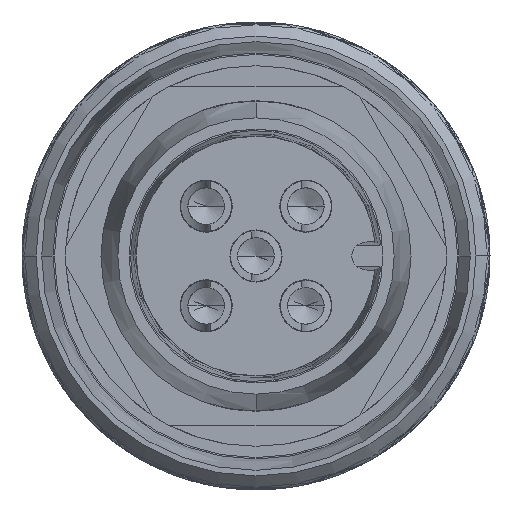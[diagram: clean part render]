
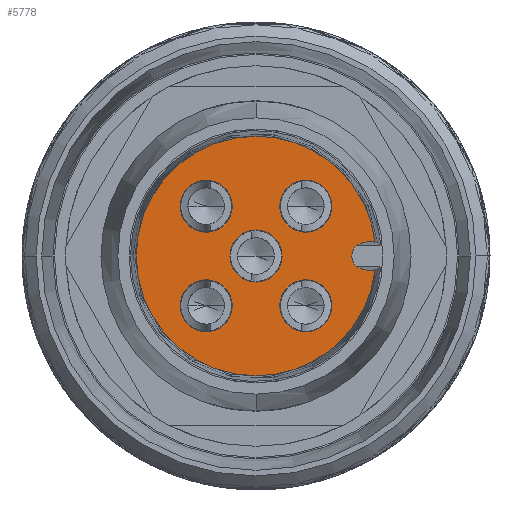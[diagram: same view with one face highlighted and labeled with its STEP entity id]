
A CAD part, left-side view. The second image highlights one B-rep face of the part: STEP entity #5778.
In plain terms, the highlighted planar face has unit normal (-1, 0, 0).
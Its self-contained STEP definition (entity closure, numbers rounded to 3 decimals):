
#5211=CARTESIAN_POINT('',(0.,0.,-3.95));
#5212=DIRECTION('',(-1.,0.,0.));
#5213=DIRECTION('',(0.,-1.,0.));
#5214=AXIS2_PLACEMENT_3D('',#5211,#5212,#5213);
#5216=CARTESIAN_POINT('',(0.,0.,0.));
#5217=DIRECTION('',(1.,0.,0.));
#5218=DIRECTION('',(0.,0.118,-0.993));
#5219=AXIS2_PLACEMENT_3D('',#5216,#5217,#5218);
#5221=CARTESIAN_POINT('',(0.,0.,0.));
#5222=DIRECTION('',(1.,0.,0.));
#5223=DIRECTION('',(0.,1.,0.));
#5224=AXIS2_PLACEMENT_3D('',#5221,#5222,#5223);
#5226=CARTESIAN_POINT('',(0.,0.,0.));
#5227=DIRECTION('',(1.,0.,0.));
#5228=DIRECTION('',(0.,-1.,0.));
#5229=AXIS2_PLACEMENT_3D('',#5226,#5227,#5228);
#5231=DIRECTION('',(0.,0.,1.));
#5232=VECTOR('',#5231,0.27);
#5233=CARTESIAN_POINT('',(0.,-0.5,-4.22));
#5234=LINE('',#5233,#5232);
#5235=CARTESIAN_POINT('',(0.,-1.768,-1.768));
#5236=DIRECTION('',(-1.,0.,0.));
#5237=DIRECTION('',(0.,1.,0.));
#5238=AXIS2_PLACEMENT_3D('',#5235,#5236,#5237);
#5240=CARTESIAN_POINT('',(0.,-1.768,-1.768));
#5241=DIRECTION('',(-1.,0.,0.));
#5242=DIRECTION('',(0.,-1.,0.));
#5243=AXIS2_PLACEMENT_3D('',#5240,#5241,#5242);
#5245=CARTESIAN_POINT('',(0.,1.768,-1.768));
#5246=DIRECTION('',(-1.,0.,0.));
#5247=DIRECTION('',(0.,1.,0.));
#5248=AXIS2_PLACEMENT_3D('',#5245,#5246,#5247);
#5250=CARTESIAN_POINT('',(0.,1.768,-1.768));
#5251=DIRECTION('',(-1.,0.,0.));
#5252=DIRECTION('',(0.,-1.,0.));
#5253=AXIS2_PLACEMENT_3D('',#5250,#5251,#5252);
#5255=CARTESIAN_POINT('',(0.,0.,0.));
#5256=DIRECTION('',(-1.,0.,0.));
#5257=DIRECTION('',(0.,1.,0.));
#5258=AXIS2_PLACEMENT_3D('',#5255,#5256,#5257);
#5260=CARTESIAN_POINT('',(0.,0.,0.));
#5261=DIRECTION('',(-1.,0.,0.));
#5262=DIRECTION('',(0.,-1.,0.));
#5263=AXIS2_PLACEMENT_3D('',#5260,#5261,#5262);
#5265=CARTESIAN_POINT('',(0.,1.768,1.768));
#5266=DIRECTION('',(-1.,0.,0.));
#5267=DIRECTION('',(0.,1.,0.));
#5268=AXIS2_PLACEMENT_3D('',#5265,#5266,#5267);
#5270=CARTESIAN_POINT('',(0.,1.768,1.768));
#5271=DIRECTION('',(-1.,0.,0.));
#5272=DIRECTION('',(0.,-1.,0.));
#5273=AXIS2_PLACEMENT_3D('',#5270,#5271,#5272);
#5275=CARTESIAN_POINT('',(0.,-1.768,1.768));
#5276=DIRECTION('',(-1.,0.,0.));
#5277=DIRECTION('',(0.,1.,0.));
#5278=AXIS2_PLACEMENT_3D('',#5275,#5276,#5277);
#5280=CARTESIAN_POINT('',(0.,-1.768,1.768));
#5281=DIRECTION('',(-1.,0.,0.));
#5282=DIRECTION('',(0.,-1.,0.));
#5283=AXIS2_PLACEMENT_3D('',#5280,#5281,#5282);
#5343=DIRECTION('',(0.,0.,1.));
#5344=VECTOR('',#5343,0.27);
#5345=CARTESIAN_POINT('',(0.,0.5,-4.22));
#5346=LINE('',#5345,#5344);
#5609=CARTESIAN_POINT('',(0.,-0.5,-3.95));
#5610=CARTESIAN_POINT('',(0.,0.5,-3.95));
#5611=VERTEX_POINT('',#5609);
#5612=VERTEX_POINT('',#5610);
#5613=CARTESIAN_POINT('',(0.,0.5,-4.22));
#5614=VERTEX_POINT('',#5613);
#5615=CARTESIAN_POINT('',(0.,4.25,0.));
#5616=VERTEX_POINT('',#5615);
#5617=CARTESIAN_POINT('',(0.,-4.25,0.));
#5618=VERTEX_POINT('',#5617);
#5619=CARTESIAN_POINT('',(0.,-0.5,-4.22));
#5620=VERTEX_POINT('',#5619);
#5621=CARTESIAN_POINT('',(0.,-0.843,-1.768));
#5622=CARTESIAN_POINT('',(0.,-2.693,-1.768));
#5623=VERTEX_POINT('',#5621);
#5624=VERTEX_POINT('',#5622);
#5625=CARTESIAN_POINT('',(0.,2.693,-1.768));
#5626=CARTESIAN_POINT('',(0.,0.843,-1.768));
#5627=VERTEX_POINT('',#5625);
#5628=VERTEX_POINT('',#5626);
#5629=CARTESIAN_POINT('',(0.,0.925,0.));
#5630=CARTESIAN_POINT('',(0.,-0.925,0.));
#5631=VERTEX_POINT('',#5629);
#5632=VERTEX_POINT('',#5630);
#5633=CARTESIAN_POINT('',(0.,2.693,1.768));
#5634=CARTESIAN_POINT('',(0.,0.843,1.768));
#5635=VERTEX_POINT('',#5633);
#5636=VERTEX_POINT('',#5634);
#5637=CARTESIAN_POINT('',(0.,-0.843,1.768));
#5638=CARTESIAN_POINT('',(0.,-2.693,1.768));
#5639=VERTEX_POINT('',#5637);
#5640=VERTEX_POINT('',#5638);
#5729=CARTESIAN_POINT('',(0.,0.,0.));
#5730=DIRECTION('',(1.,0.,0.));
#5731=DIRECTION('',(0.,-1.,0.));
#5732=AXIS2_PLACEMENT_3D('',#5729,#5730,#5731);
#5733=PLANE('',#5732);
#5735=ORIENTED_EDGE('',*,*,#5734,.T.);
#5737=ORIENTED_EDGE('',*,*,#5736,.F.);
#5739=ORIENTED_EDGE('',*,*,#5738,.T.);
#5741=ORIENTED_EDGE('',*,*,#5740,.T.);
#5743=ORIENTED_EDGE('',*,*,#5742,.T.);
#5745=ORIENTED_EDGE('',*,*,#5744,.T.);
#5746=EDGE_LOOP('',(#5735,#5737,#5739,#5741,#5743,#5745));
#5747=FACE_OUTER_BOUND('',#5746,.F.);
#5749=ORIENTED_EDGE('',*,*,#5748,.T.);
#5751=ORIENTED_EDGE('',*,*,#5750,.T.);
#5752=EDGE_LOOP('',(#5749,#5751));
#5753=FACE_BOUND('',#5752,.F.);
#5755=ORIENTED_EDGE('',*,*,#5754,.T.);
#5757=ORIENTED_EDGE('',*,*,#5756,.T.);
#5758=EDGE_LOOP('',(#5755,#5757));
#5759=FACE_BOUND('',#5758,.F.);
#5761=ORIENTED_EDGE('',*,*,#5760,.T.);
#5763=ORIENTED_EDGE('',*,*,#5762,.T.);
#5764=EDGE_LOOP('',(#5761,#5763));
#5765=FACE_BOUND('',#5764,.F.);
#5767=ORIENTED_EDGE('',*,*,#5766,.T.);
#5769=ORIENTED_EDGE('',*,*,#5768,.T.);
#5770=EDGE_LOOP('',(#5767,#5769));
#5771=FACE_BOUND('',#5770,.F.);
#5773=ORIENTED_EDGE('',*,*,#5772,.T.);
#5775=ORIENTED_EDGE('',*,*,#5774,.T.);
#5776=EDGE_LOOP('',(#5773,#5775));
#5777=FACE_BOUND('',#5776,.F.);
#5778=ADVANCED_FACE('',(#5747,#5753,#5759,#5765,#5771,#5777),#5733,.F.);
#5215=CIRCLE('',#5214,0.5);
#5220=CIRCLE('',#5219,4.25);
#5225=CIRCLE('',#5224,4.25);
#5230=CIRCLE('',#5229,4.25);
#5239=CIRCLE('',#5238,0.925);
#5244=CIRCLE('',#5243,0.925);
#5249=CIRCLE('',#5248,0.925);
#5254=CIRCLE('',#5253,0.925);
#5259=CIRCLE('',#5258,0.925);
#5264=CIRCLE('',#5263,0.925);
#5269=CIRCLE('',#5268,0.925);
#5274=CIRCLE('',#5273,0.925);
#5279=CIRCLE('',#5278,0.925);
#5284=CIRCLE('',#5283,0.925);
#5734=EDGE_CURVE('',#5611,#5612,#5215,.T.);
#5736=EDGE_CURVE('',#5614,#5612,#5346,.T.);
#5738=EDGE_CURVE('',#5614,#5616,#5220,.T.);
#5740=EDGE_CURVE('',#5616,#5618,#5225,.T.);
#5742=EDGE_CURVE('',#5618,#5620,#5230,.T.);
#5744=EDGE_CURVE('',#5620,#5611,#5234,.T.);
#5748=EDGE_CURVE('',#5623,#5624,#5239,.T.);
#5750=EDGE_CURVE('',#5624,#5623,#5244,.T.);
#5754=EDGE_CURVE('',#5627,#5628,#5249,.T.);
#5756=EDGE_CURVE('',#5628,#5627,#5254,.T.);
#5760=EDGE_CURVE('',#5631,#5632,#5259,.T.);
#5762=EDGE_CURVE('',#5632,#5631,#5264,.T.);
#5766=EDGE_CURVE('',#5635,#5636,#5269,.T.);
#5768=EDGE_CURVE('',#5636,#5635,#5274,.T.);
#5772=EDGE_CURVE('',#5639,#5640,#5279,.T.);
#5774=EDGE_CURVE('',#5640,#5639,#5284,.T.);
